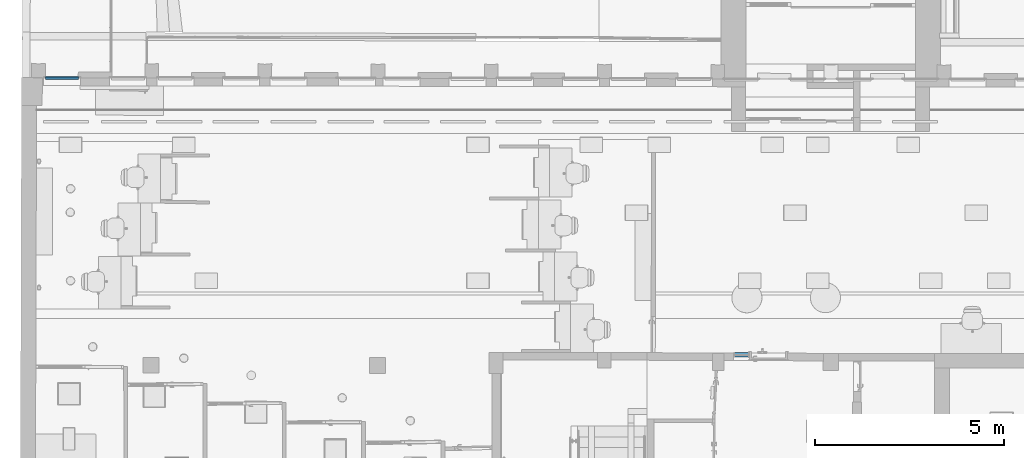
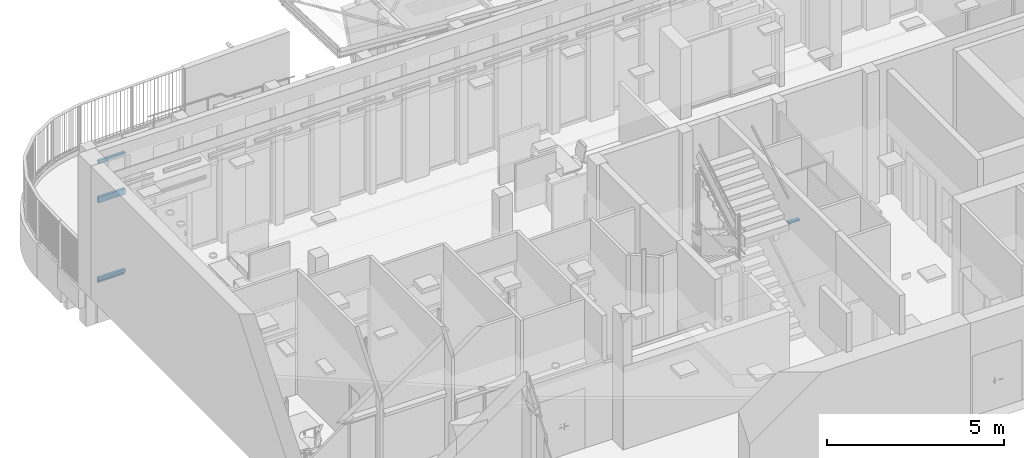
# One storey, part 15 of 128: 6 members, 3 elements without a shape of their own.
"""IFC2X3 building model written with IfcOpenShell, lengths in metres."""

from ifc_helpers import new_model, entity, si_unit, converted_unit, derived_unit, direction, frame, frame_2d, origin, origin_2d_with_axis, place, context, subcontext, project, spatial, rectangle, extrude, source, transform, mapped, material, type_object, type_shapes, element, aggregate, save


model = new_model("IFC2X3")

# Units and contexts
model_context = context("Model", 3, precision=1e-05, world=origin(), true_north=direction((6.123031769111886e-17, 1.0)))
body_context = subcontext(model_context, "Body", "Model", "MODEL_VIEW")
ifc_project = project(units=[si_unit("LENGTHUNIT", "METRE"), si_unit("AREAUNIT", "SQUARE_METRE"), converted_unit("PLANEANGLEUNIT", "DEGREE", entity("IfcPlaneAngleMeasure", 0.017453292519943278), si_unit("PLANEANGLEUNIT", "RADIAN"), dimensions=[0, 0, 0, 0, 0, 0, 0]), derived_unit("THERMALTRANSMITTANCEUNIT", [(si_unit("MASSUNIT", "GRAM", prefix="KILO"), 1), (si_unit("THERMODYNAMICTEMPERATUREUNIT", "KELVIN"), -1), (si_unit("TIMEUNIT", "SECOND"), -3)])], contexts=[model_context])

# Site, building, storey
site_placement = place(None, origin())
site = spatial("IfcSite", under=ifc_project, at=site_placement, Name="Default", CompositionType="ELEMENT")
building_placement = place(site_placement, origin())
building = spatial("IfcBuilding", under=site, at=building_placement, CompositionType="ELEMENT")
storey_placement = place(building_placement, origin())
storey = spatial("IfcBuildingStorey", under=building, at=storey_placement, Name="00_RDC CAF", CompositionType="ELEMENT", Elevation=2.4982504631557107e-13)

# Curtain wall, members
curtain_wall_type_1 = type_object("IfcCurtainWallType", Name="Mur-rideau:FRi.Ext.30mm RDC", PredefinedType="NOTDEFINED")
curtain_wall_1_placement = place(storey_placement, origin())
curtain_wall_1 = element("IfcCurtainWall", 1, at=curtain_wall_1_placement, inside=storey, type_object=curtain_wall_type_1, Name="Mur-rideau:FRi.Ext.30mm RDC", ObjectType="Mur-rideau:FRi.Ext.30mm RDC")
ifc_material_1 = material(Name="ARC - M.Ex - Blanc")
member_type_1 = type_object("IfcMemberType", Name="Meneau rectangulaire:F.Ri.M_Ext_Rectangulaire_200x80mm", PredefinedType="MULLION", material=ifc_material_1)
shared_shape_1 = source(origin(), body_context, "Body", "SweptSolid", [
    extrude(rectangle(XDim=0.2, YDim=0.07999999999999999, at=origin_2d_with_axis()), frame((0.0, 0.025, -0.8799999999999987), z_axis=(0.0, 0.0, 1.0), x_axis=(-1.0, 0.0, 0.0)), (0.0, 0.0, 1.0), 0.8799999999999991),
])
type_shapes(member_type_1, [shared_shape_1])
member_1_placement = place(curtain_wall_1_placement, frame((7.816045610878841, 144.1818815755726, 2.7689999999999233), z_axis=(1.0, 0.0, 0.0), x_axis=(0.0, 0.0, 1.0)))
member_1 = element("IfcMember", 2, at=member_1_placement, type_object=member_type_1, material=ifc_material_1, Name="Meneau rectangulaire:F.Ri.M_Ext_Rectangulaire_200x80mm", ObjectType="Meneau rectangulaire:F.Ri.M_Ext_Rectangulaire_200x80mm", context=body_context, shape_type="MappedRepresentation", body=[
    mapped(shared_shape_1, transform((0.0, 0.0, 0.0), scale=1.0)),
])
member_type_2 = type_object("IfcMemberType", Name="Meneau rectangulaire:F.Ri.M_Ext_Rectangulaire_90x80mm", PredefinedType="MULLION", material=ifc_material_1)
shared_shape_2 = source(origin(), body_context, "Body", "SweptSolid", [
    extrude(rectangle(XDim=0.09, YDim=0.07999999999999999, at=origin_2d_with_axis()), frame((-0.045, 0.025, -0.8799999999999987), z_axis=(0.0, 0.0, 1.0), x_axis=(-1.0, 0.0, 0.0)), (0.0, 0.0, 1.0), 0.8799999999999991),
])
type_shapes(member_type_2, [shared_shape_2])
member_2_placement = place(curtain_wall_1_placement, frame((7.816045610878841, 144.1818815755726, 4.127999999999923), z_axis=(1.0, 0.0, 0.0), x_axis=(0.0, 0.0, 1.0)))
member_2 = element("IfcMember", 3, at=member_2_placement, type_object=member_type_2, material=ifc_material_1, Name="Meneau rectangulaire:F.Ri.M_Ext_Rectangulaire_90x80mm", ObjectType="Meneau rectangulaire:F.Ri.M_Ext_Rectangulaire_90x80mm", context=body_context, shape_type="MappedRepresentation", body=[
    mapped(shared_shape_2, transform((0.0, 0.0, 0.0), scale=1.0)),
])
member_type_3 = type_object("IfcMemberType", Name="Meneau rectangulaire:F.Ri.M_Ext_Rectangulaire_90x80mm", PredefinedType="MULLION", material=ifc_material_1)
shared_shape_3 = source(origin(), body_context, "Body", "SweptSolid", [
    extrude(rectangle(XDim=0.09, YDim=0.07999999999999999, at=origin_2d_with_axis()), frame((-0.045, 0.025, -0.8799999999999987), z_axis=(0.0, 0.0, 1.0), x_axis=(-1.0, 0.0, 0.0)), (0.0, 0.0, 1.0), 0.8799999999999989),
])
type_shapes(member_type_3, [shared_shape_3])
member_3_placement = place(curtain_wall_1_placement, frame((6.936046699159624, 144.18326554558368, 0.0), z_axis=(-1.0, 0.0, 0.0), x_axis=(0.0, 0.0, -1.0)))
member_3 = element("IfcMember", 4, at=member_3_placement, type_object=member_type_3, material=ifc_material_1, Name="Meneau rectangulaire:F.Ri.M_Ext_Rectangulaire_90x80mm", ObjectType="Meneau rectangulaire:F.Ri.M_Ext_Rectangulaire_90x80mm", context=body_context, shape_type="MappedRepresentation", body=[
    mapped(shared_shape_3, transform((0.0, 0.0, 0.0), scale=1.0)),
])
aggregate(curtain_wall_1, [member_1, member_2, member_3])

# Curtain wall, member
curtain_wall_type_2 = type_object("IfcCurtainWallType", Name="Mur-rideau:M.Ri._Vitre_40mm_Montant_115mm", PredefinedType="NOTDEFINED")
curtain_wall_2_placement = place(storey_placement, origin())
curtain_wall_2 = element("IfcCurtainWall", 5, at=curtain_wall_2_placement, inside=storey, type_object=curtain_wall_type_2, Name="Mur-rideau:M.Ri._Vitre_40mm_Montant_115mm", ObjectType="Mur-rideau:M.Ri._Vitre_40mm_Montant_115mm")
ifc_material_2 = material(Name="ARC - M.In - Blanc")
member_type_4 = type_object("IfcMemberType", Name="Meneau rectangulaire:M.Ri.M_Int_Rectangulaire_55x115mm", PredefinedType="MULLION", material=ifc_material_2)
shared_shape_4 = source(origin(), body_context, "Body", "SweptSolid", [
    extrude(rectangle(XDim=0.055, YDim=0.11500000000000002, at=frame_2d((0.0, -3.469446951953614e-18), x_axis=(1.0, 0.0))), frame((-0.0275, 0.0, -0.36260903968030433), z_axis=(0.0, 0.0, 1.0), x_axis=(-1.0, 0.0, 0.0)), (0.0, 0.0, 1.0), 0.36260903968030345),
])
type_shapes(member_type_4, [shared_shape_4])
member_4_placement = place(curtain_wall_2_placement, frame((25.19979972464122, 136.82690296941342, 0.0), z_axis=(-1.0, 0.0, 0.0), x_axis=(0.0, 0.0, -1.0)))
member_4 = element("IfcMember", 6, at=member_4_placement, type_object=member_type_4, material=ifc_material_2, Name="Meneau rectangulaire:M.Ri.M_Int_Rectangulaire_55x115mm", ObjectType="Meneau rectangulaire:M.Ri.M_Int_Rectangulaire_55x115mm", context=body_context, shape_type="MappedRepresentation", body=[
    mapped(shared_shape_4, transform((0.0, 0.0, 0.0), scale=1.0)),
])
aggregate(curtain_wall_2, [member_4])

# Curtain wall, members
curtain_wall_type_3 = type_object("IfcCurtainWallType", Name="Mur-rideau:FRi.Ext.30mm Etages", PredefinedType="NOTDEFINED")
curtain_wall_3_placement = place(storey_placement, origin())
curtain_wall_3 = element("IfcCurtainWall", 7, at=curtain_wall_3_placement, inside=storey, type_object=curtain_wall_type_3, Name="Mur-rideau:FRi.Ext.30mm Etages", ObjectType="Mur-rideau:FRi.Ext.30mm Etages")
member_type_5 = type_object("IfcMemberType", Name="Meneau rectangulaire:F.Ri.M_Ext_Rectangulaire_50x30mm", PredefinedType="MULLION", material=ifc_material_1)
shared_shape_5 = source(origin(), body_context, "Body", "SweptSolid", [
    extrude(rectangle(XDim=0.05, YDim=0.029999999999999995, at=origin_2d_with_axis()), frame((0.0, 0.0, -0.8800000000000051), z_axis=(0.0, 0.0, 1.0), x_axis=(-1.0, 0.0, 0.0)), (0.0, 0.0, 1.0), 0.8800000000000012),
])
type_shapes(member_type_5, [shared_shape_5])
member_5_placement = place(curtain_wall_3_placement, frame((7.81604561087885, 144.18188157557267, -0.087000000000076), z_axis=(1.0, 0.0, 0.0), x_axis=(0.0, 0.0, 1.0)))
member_5 = element("IfcMember", 8, at=member_5_placement, type_object=member_type_5, material=ifc_material_1, Name="Meneau rectangulaire:F.Ri.M_Ext_Rectangulaire_50x30mm", ObjectType="Meneau rectangulaire:F.Ri.M_Ext_Rectangulaire_50x30mm", context=body_context, shape_type="MappedRepresentation", body=[
    mapped(shared_shape_5, transform((0.0, 0.0, 0.0), scale=1.0)),
])
member_type_6 = type_object("IfcMemberType", Name="Meneau rectangulaire:F.Ri.M_Ext_Rectangulaire_50x30mm", PredefinedType="MULLION", material=ifc_material_1)
shared_shape_6 = source(origin(), body_context, "Body", "SweptSolid", [
    extrude(rectangle(XDim=0.05, YDim=0.03, at=origin_2d_with_axis()), frame((-0.025, 0.0, -0.8800000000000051), z_axis=(0.0, 0.0, 1.0), x_axis=(-1.0, 0.0, 0.0)), (0.0, 0.0, 1.0), 0.8800000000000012),
])
type_shapes(member_type_6, [shared_shape_6])
member_6_placement = place(curtain_wall_3_placement, frame((7.81604561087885, 144.18188157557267, 0.0), z_axis=(1.0, 0.0, 0.0), x_axis=(0.0, 0.0, 1.0)))
member_6 = element("IfcMember", 9, at=member_6_placement, type_object=member_type_6, material=ifc_material_1, Name="Meneau rectangulaire:F.Ri.M_Ext_Rectangulaire_50x30mm", ObjectType="Meneau rectangulaire:F.Ri.M_Ext_Rectangulaire_50x30mm", context=body_context, shape_type="MappedRepresentation", body=[
    mapped(shared_shape_6, transform((0.0, 0.0, 0.0), scale=1.0)),
])
aggregate(curtain_wall_3, [member_5, member_6])

save(model, "model.ifc")
